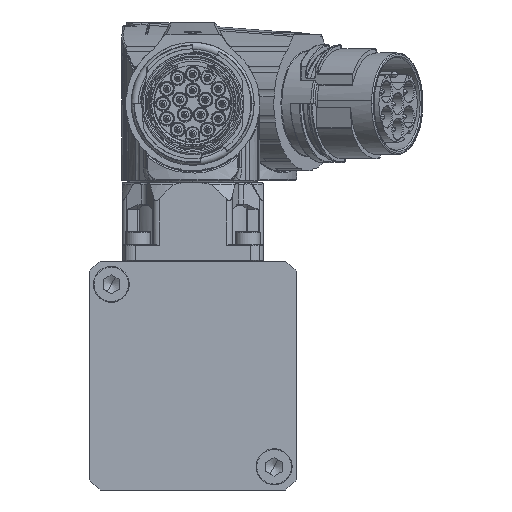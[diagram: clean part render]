
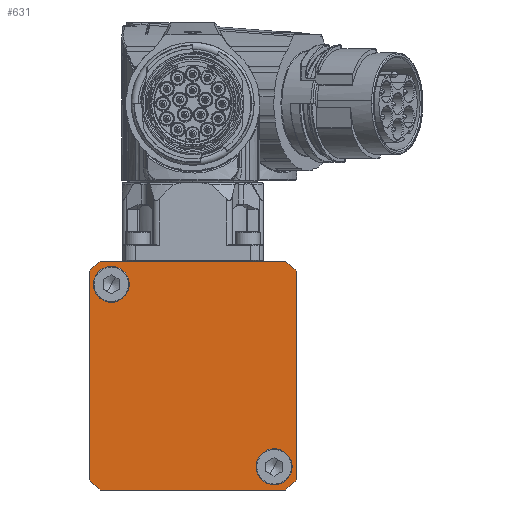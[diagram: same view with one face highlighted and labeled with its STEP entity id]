
A CAD part, left-side view. The second image highlights one B-rep face of the part: STEP entity #631.
In plain terms, the highlighted planar face has unit normal (-1, 0, 0).
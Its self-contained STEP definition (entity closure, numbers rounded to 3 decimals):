
#250=CARTESIAN_POINT('Cartesian Point',(0.,-14.142,-17.5)) ;
#257=CARTESIAN_POINT('Cartesian Point',(0.,-15.85,-15.97)) ;
#260=CARTESIAN_POINT('Axis2P3D Location',(0.,0.,0.)) ;
#277=CARTESIAN_POINT('Line Origine',(0.,0.,-17.5)) ;
#281=CARTESIAN_POINT('Cartesian Point',(0.,14.142,-17.5)) ;
#296=CARTESIAN_POINT('Axis2P3D Location',(0.,0.,0.)) ;
#300=CARTESIAN_POINT('Cartesian Point',(0.,15.85,-15.97)) ;
#324=CARTESIAN_POINT('Cartesian Point',(0.,15.85,15.97)) ;
#327=CARTESIAN_POINT('Line Origine',(0.,15.85,0.)) ;
#343=CARTESIAN_POINT('Cartesian Point',(0.,14.142,17.5)) ;
#346=CARTESIAN_POINT('Axis2P3D Location',(0.,0.,0.)) ;
#363=CARTESIAN_POINT('Line Origine',(0.,0.,17.5)) ;
#367=CARTESIAN_POINT('Cartesian Point',(0.,-14.142,17.5)) ;
#472=CARTESIAN_POINT('Axis2P3D Location',(0.,0.,0.)) ;
#476=CARTESIAN_POINT('Cartesian Point',(0.,-15.85,15.97)) ;
#496=CARTESIAN_POINT('Line Origine',(0.,-15.85,0.)) ;
#560=CARTESIAN_POINT('Cartesian Point',(0.,-15.2,-13.95)) ;
#563=CARTESIAN_POINT('Axis2P3D Location',(0.,-12.45,-13.95)) ;
#567=CARTESIAN_POINT('Cartesian Point',(0.,-9.7,-13.95)) ;
#582=CARTESIAN_POINT('Axis2P3D Location',(0.,-12.45,-13.95)) ;
#594=CARTESIAN_POINT('Axis2P3D Location',(0.,0.,0.)) ;
#613=CARTESIAN_POINT('Axis2P3D Location',(0.,12.45,13.95)) ;
#617=CARTESIAN_POINT('Cartesian Point',(0.,15.2,13.95)) ;
#619=CARTESIAN_POINT('Cartesian Point',(0.,9.7,13.95)) ;
#622=CARTESIAN_POINT('Axis2P3D Location',(0.,12.45,13.95)) ;
#261=DIRECTION('Axis2P3D Direction',(-1.,0.,0.)) ;
#278=DIRECTION('Vector Direction',(0.,-1.,0.)) ;
#297=DIRECTION('Axis2P3D Direction',(-1.,0.,0.)) ;
#328=DIRECTION('Vector Direction',(0.,0.,1.)) ;
#347=DIRECTION('Axis2P3D Direction',(-1.,0.,0.)) ;
#364=DIRECTION('Vector Direction',(0.,1.,0.)) ;
#473=DIRECTION('Axis2P3D Direction',(-1.,0.,0.)) ;
#497=DIRECTION('Vector Direction',(0.,0.,-1.)) ;
#564=DIRECTION('Axis2P3D Direction',(-1.,0.,0.)) ;
#583=DIRECTION('Axis2P3D Direction',(-1.,0.,0.)) ;
#595=DIRECTION('Axis2P3D Direction',(1.,0.,0.)) ;
#596=DIRECTION('Axis2P3D XDirection',(0.,1.,0.)) ;
#614=DIRECTION('Axis2P3D Direction',(1.,0.,0.)) ;
#623=DIRECTION('Axis2P3D Direction',(1.,0.,0.)) ;
#262=AXIS2_PLACEMENT_3D('Circle Axis2P3D',#260,#261,$) ;
#298=AXIS2_PLACEMENT_3D('Circle Axis2P3D',#296,#297,$) ;
#348=AXIS2_PLACEMENT_3D('Circle Axis2P3D',#346,#347,$) ;
#474=AXIS2_PLACEMENT_3D('Circle Axis2P3D',#472,#473,$) ;
#565=AXIS2_PLACEMENT_3D('Circle Axis2P3D',#563,#564,$) ;
#584=AXIS2_PLACEMENT_3D('Circle Axis2P3D',#582,#583,$) ;
#597=AXIS2_PLACEMENT_3D('Plane Axis2P3D',#594,#595,#596) ;
#615=AXIS2_PLACEMENT_3D('Circle Axis2P3D',#613,#614,$) ;
#624=AXIS2_PLACEMENT_3D('Circle Axis2P3D',#622,#623,$) ;
#600=ORIENTED_EDGE('Oriented Edge',*,*,#500,.F.) ;
#601=ORIENTED_EDGE('Oriented Edge',*,*,#478,.T.) ;
#602=ORIENTED_EDGE('Oriented Edge',*,*,#369,.F.) ;
#603=ORIENTED_EDGE('Oriented Edge',*,*,#350,.T.) ;
#604=ORIENTED_EDGE('Oriented Edge',*,*,#331,.F.) ;
#605=ORIENTED_EDGE('Oriented Edge',*,*,#302,.T.) ;
#606=ORIENTED_EDGE('Oriented Edge',*,*,#283,.F.) ;
#607=ORIENTED_EDGE('Oriented Edge',*,*,#264,.T.) ;
#610=ORIENTED_EDGE('Oriented Edge',*,*,#569,.F.) ;
#611=ORIENTED_EDGE('Oriented Edge',*,*,#586,.F.) ;
#628=ORIENTED_EDGE('Oriented Edge',*,*,#621,.F.) ;
#629=ORIENTED_EDGE('Oriented Edge',*,*,#626,.F.) ;
#612=FACE_BOUND('Face Bound',#609,.T.) ;
#630=FACE_BOUND('Face Bound',#627,.T.) ;
#279=VECTOR('Line Direction',#278,1.) ;
#329=VECTOR('Line Direction',#328,1.) ;
#365=VECTOR('Line Direction',#364,1.) ;
#498=VECTOR('Line Direction',#497,1.) ;
#631=ADVANCED_FACE('',(#608,#612,#630),#598,.F.) ;
#263=CIRCLE('generated circle',#262,22.5) ;
#299=CIRCLE('generated circle',#298,22.5) ;
#349=CIRCLE('generated circle',#348,22.5) ;
#475=CIRCLE('generated circle',#474,22.5) ;
#566=CIRCLE('generated circle',#565,2.75) ;
#585=CIRCLE('generated circle',#584,2.75) ;
#616=CIRCLE('generated circle',#615,2.75) ;
#625=CIRCLE('generated circle',#624,2.75) ;
#264=EDGE_CURVE('',#251,#258,#263,.T.) ;
#283=EDGE_CURVE('',#251,#282,#280,.F.) ;
#302=EDGE_CURVE('',#301,#282,#299,.T.) ;
#331=EDGE_CURVE('',#301,#325,#330,.T.) ;
#350=EDGE_CURVE('',#344,#325,#349,.T.) ;
#369=EDGE_CURVE('',#344,#368,#366,.F.) ;
#478=EDGE_CURVE('',#477,#368,#475,.T.) ;
#500=EDGE_CURVE('',#477,#258,#499,.T.) ;
#569=EDGE_CURVE('',#561,#568,#566,.T.) ;
#586=EDGE_CURVE('',#568,#561,#585,.T.) ;
#621=EDGE_CURVE('',#618,#620,#616,.F.) ;
#626=EDGE_CURVE('',#620,#618,#625,.F.) ;
#599=EDGE_LOOP('Oriented Loop',(#600,#601,#602,#603,#604,#605,#606,#607)) ;
#609=EDGE_LOOP('Oriented Loop',(#610,#611)) ;
#627=EDGE_LOOP('Oriented Loop',(#628,#629)) ;
#608=FACE_OUTER_BOUND('Face Bound',#599,.T.) ;
#280=LINE('Line',#277,#279) ;
#330=LINE('Line',#327,#329) ;
#366=LINE('Line',#363,#365) ;
#499=LINE('Line',#496,#498) ;
#598=PLANE('Plane',#597) ;
#251=VERTEX_POINT('Vertex Point',#250) ;
#258=VERTEX_POINT('Vertex Point',#257) ;
#282=VERTEX_POINT('Vertex Point',#281) ;
#301=VERTEX_POINT('Vertex Point',#300) ;
#325=VERTEX_POINT('Vertex Point',#324) ;
#344=VERTEX_POINT('Vertex Point',#343) ;
#368=VERTEX_POINT('Vertex Point',#367) ;
#477=VERTEX_POINT('Vertex Point',#476) ;
#561=VERTEX_POINT('Vertex Point',#560) ;
#568=VERTEX_POINT('Vertex Point',#567) ;
#618=VERTEX_POINT('Vertex Point',#617) ;
#620=VERTEX_POINT('Vertex Point',#619) ;
